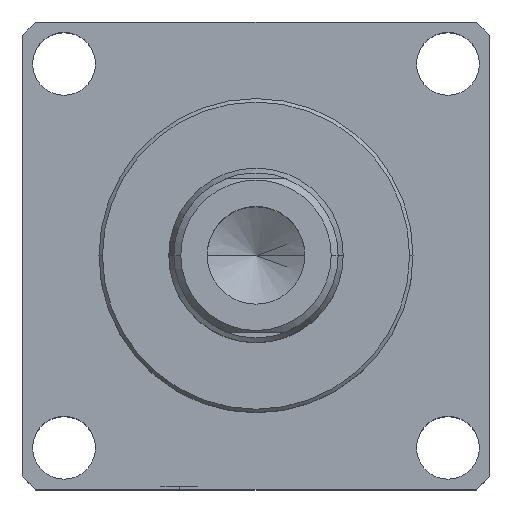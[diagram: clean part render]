
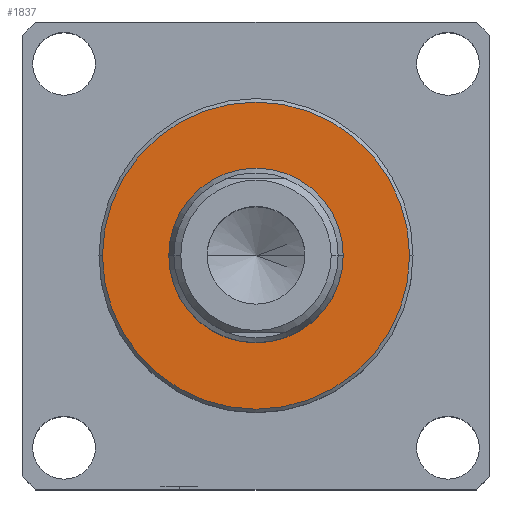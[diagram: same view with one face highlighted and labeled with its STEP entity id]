
A CAD part, top view. The second image highlights one B-rep face of the part: STEP entity #1837.
In plain terms, the highlighted planar face has unit normal (0, 0, 1).
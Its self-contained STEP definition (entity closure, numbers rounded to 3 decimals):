
#13 = EDGE_LOOP ( 'NONE', ( #105, #1390 ) ) ;
#97 = VERTEX_POINT ( 'NONE', #1009 ) ;
#105 = ORIENTED_EDGE ( 'NONE', *, *, #569, .F. ) ;
#108 = EDGE_CURVE ( 'NONE', #577, #97, #979, .T. ) ;
#135 = DIRECTION ( 'NONE',  ( 1., 0., 0. ) ) ;
#199 = CIRCLE ( 'NONE', #392, 22. ) ;
#248 = FACE_BOUND ( 'NONE', #13, .T. ) ;
#287 = AXIS2_PLACEMENT_3D ( 'NONE', #603, #1227, #135 ) ;
#294 = CIRCLE ( 'NONE', #540, 22. ) ;
#392 = AXIS2_PLACEMENT_3D ( 'NONE', #909, #1825, #752 ) ;
#439 = VERTEX_POINT ( 'NONE', #726 ) ;
#538 = CARTESIAN_POINT ( 'NONE',  ( 0., 0., 95. ) ) ;
#540 = AXIS2_PLACEMENT_3D ( 'NONE', #1882, #937, #850 ) ;
#569 = EDGE_CURVE ( 'NONE', #97, #577, #1761, .T. ) ;
#571 = CARTESIAN_POINT ( 'NONE',  ( 0., 0., 95. ) ) ;
#577 = VERTEX_POINT ( 'NONE', #1663 ) ;
#603 = CARTESIAN_POINT ( 'NONE',  ( 0., 0., 95. ) ) ;
#605 = EDGE_LOOP ( 'NONE', ( #1275, #878 ) ) ;
#627 = DIRECTION ( 'NONE',  ( 0., 0., 1. ) ) ;
#726 = CARTESIAN_POINT ( 'NONE',  ( -22., 0., 95. ) ) ;
#743 = DIRECTION ( 'NONE',  ( 1., 0., 0. ) ) ;
#752 = DIRECTION ( 'NONE',  ( 1., 0., 0. ) ) ;
#850 = DIRECTION ( 'NONE',  ( 1., 0., 0. ) ) ;
#878 = ORIENTED_EDGE ( 'NONE', *, *, #1218, .T. ) ;
#909 = CARTESIAN_POINT ( 'NONE',  ( 0., 0., 95. ) ) ;
#919 = PLANE ( 'NONE',  #287 ) ;
#937 = DIRECTION ( 'NONE',  ( 0., 0., 1. ) ) ;
#979 = CIRCLE ( 'NONE', #1695, 12.5 ) ;
#1009 = CARTESIAN_POINT ( 'NONE',  ( -12.5, 0., 95. ) ) ;
#1106 = AXIS2_PLACEMENT_3D ( 'NONE', #538, #627, #1446 ) ;
#1218 = EDGE_CURVE ( 'NONE', #1679, #439, #294, .T. ) ;
#1227 = DIRECTION ( 'NONE',  ( 0., 0., 1. ) ) ;
#1275 = ORIENTED_EDGE ( 'NONE', *, *, #1854, .T. ) ;
#1390 = ORIENTED_EDGE ( 'NONE', *, *, #108, .F. ) ;
#1429 = CARTESIAN_POINT ( 'NONE',  ( 22., 0., 95. ) ) ;
#1446 = DIRECTION ( 'NONE',  ( 1., 0., 0. ) ) ;
#1662 = DIRECTION ( 'NONE',  ( 0., 0., 1. ) ) ;
#1663 = CARTESIAN_POINT ( 'NONE',  ( 12.5, 0., 95. ) ) ;
#1679 = VERTEX_POINT ( 'NONE', #1429 ) ;
#1695 = AXIS2_PLACEMENT_3D ( 'NONE', #571, #1662, #743 ) ;
#1761 = CIRCLE ( 'NONE', #1106, 12.5 ) ;
#1825 = DIRECTION ( 'NONE',  ( 0., 0., 1. ) ) ;
#1837 = ADVANCED_FACE ( 'NONE', ( #1840, #248 ), #919, .T. ) ;
#1840 = FACE_OUTER_BOUND ( 'NONE', #605, .T. ) ;
#1854 = EDGE_CURVE ( 'NONE', #439, #1679, #199, .T. ) ;
#1882 = CARTESIAN_POINT ( 'NONE',  ( 0., 0., 95. ) ) ;
